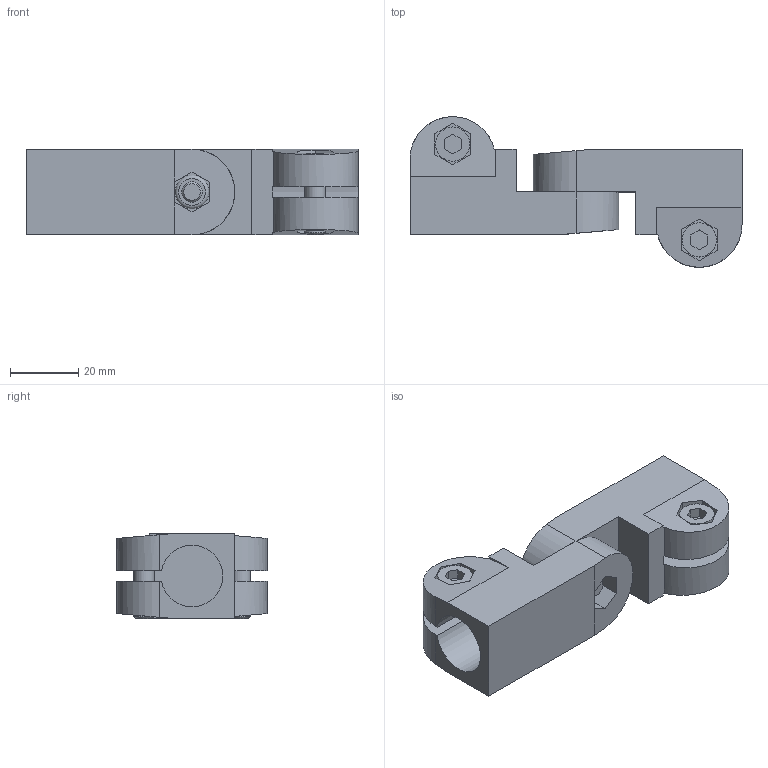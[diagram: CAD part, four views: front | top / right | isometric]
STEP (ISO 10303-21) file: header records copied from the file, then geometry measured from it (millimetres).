
FILE_DESCRIPTION( ( 'STEP AP203' ), '1' );
FILE_NAME( 'C:/Temp/Ganter_Step_05_03_2020/data/3_7/285/Swivel clamp connector joint GN 285-B18-B16-2-BL (0).stp', '2020-03-12T14:32:59', ( 'License CC BY-ND 4.0' ), ( 'CADENAS' ), ' ', 'PARTsolutions', ' ' );
FILE_SCHEMA( ( 'CONFIG_CONTROL_DESIGN' ) );
Length unit declared in the file: millimetre
Products named in the file (5): Swivel clamp connector joint GN 285-B18-B16-2-BL (0); _Swivel clamp connector base GN 285-B18-B16-2-BL-1; _Swivel clamp connector base GN 285-B18-B16-2-BL (0)-2; _Screw GN 285-M6-2; _Nut GN 285-M6-1
Assembly tree (4 placements, depth 2):
  Swivel clamp connector joint GN 285-B18-B16-2-BL (0)
    _Swivel clamp connector base GN 285-B18-B16-2-BL-1
    _Swivel clamp connector base GN 285-B18-B16-2-BL (0)-2
    _Screw GN 285-M6-2
    _Nut GN 285-M6-1
Bounding box: 97 x 44 x 25 mm (x, y, z)
Volume: 48961.5 mm3; surface area: 21066.3 mm2
Topology: 4 solids, 4 shells, 160 faces, 394 edges, 260 vertices
Faces by surface type: plane 126, cylinder 24, cone 8, torus 2
Full cylindrical faces by diameter (mm): 4.917 x1, 6 x5, 6.5 x2, 7 x4, 9.84 x1, 10 x3
Entity records: 4738 total; most frequent: CARTESIAN_POINT 886, DIRECTION 734, ORIENTED_EDGE 720, EDGE_CURVE 360, LINE 292, VECTOR 292, VERTEX_POINT 253, AXIS2_PLACEMENT_3D 221
